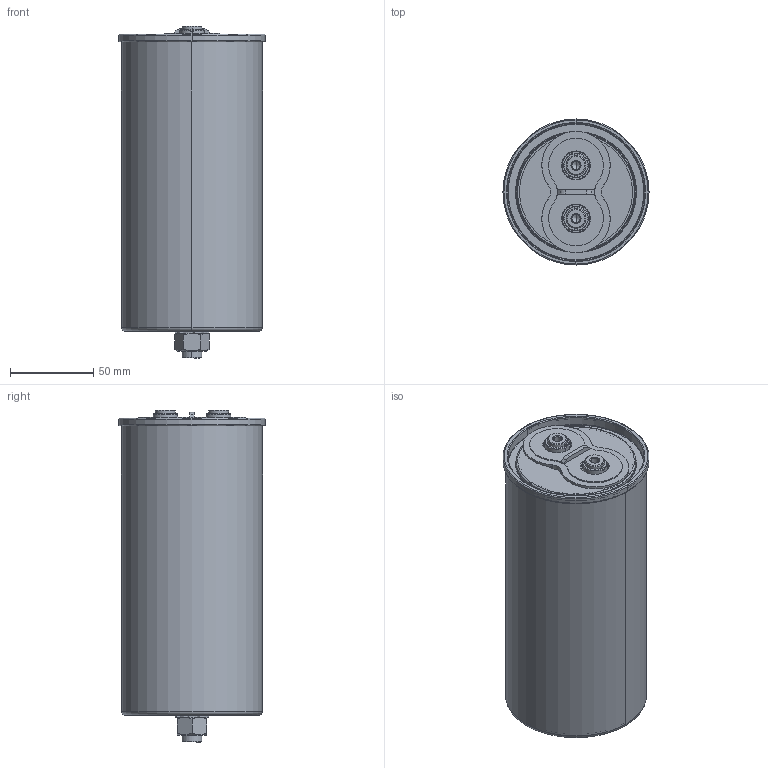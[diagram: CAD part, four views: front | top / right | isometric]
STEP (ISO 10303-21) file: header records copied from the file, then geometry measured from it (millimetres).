
FILE_DESCRIPTION (( 'STEP AP203' ), '1' );
FILE_NAME ('B25680Bx_85x179_184.STEP', '2021-09-10T07:27:51', ( '' ), ( '' ), 'SwSTEP 2.0', 'SolidWorks 2017', '' );
FILE_SCHEMA (( 'CONFIG_CONTROL_DESIGN' ));
Length unit declared in the file: millimetre
Products named in the file (1): B25680Bx_85x179_184
Bounding box: 88 x 88 x 200 mm (x, y, z)
Volume: 72705.3 mm3; surface area: 139010.8 mm2
Topology: 1 solids, 9 shells, 413 faces, 974 edges, 606 vertices
Faces by surface type: plane 163, cylinder 142, cone 42, bspline 36, torus 30
Entity records: 15024 total; most frequent: CARTESIAN_POINT 5318, DIRECTION 2138, ORIENTED_EDGE 1940, EDGE_CURVE 970, AXIS2_PLACEMENT_3D 858, VERTEX_POINT 606, CIRCLE 480, EDGE_LOOP 460
